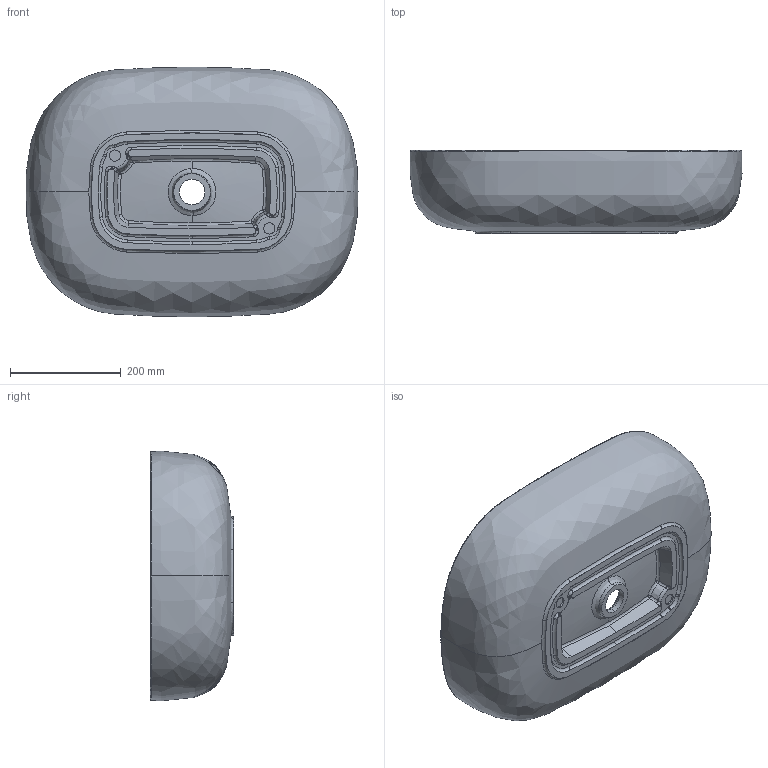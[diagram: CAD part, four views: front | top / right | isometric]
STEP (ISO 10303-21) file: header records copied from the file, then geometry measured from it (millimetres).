
FILE_DESCRIPTION (( 'STEP AP203' ), '1' );
FILE_NAME ('ELLA060450Z0.STEP', '2019-09-13T09:11:19', ( '' ), ( '' ), 'SwSTEP 2.0', 'SolidWorks 2019', '' );
FILE_SCHEMA (( 'CONFIG_CONTROL_DESIGN' ));
Length unit declared in the file: millimetre
Products named in the file (1): ELLA060450Z0
Bounding box: 598.58 x 150 x 450 mm (x, y, z)
Volume: 11007612 mm3; surface area: 758521.9 mm2
Topology: 1 solids, 1 shells, 148 faces, 377 edges, 232 vertices
Faces by surface type: bspline 64, torus 43, cylinder 15, cone 13, plane 9, sphere 4
Entity records: 15691 total; most frequent: CARTESIAN_POINT 12432, ORIENTED_EDGE 746, DIRECTION 596, EDGE_CURVE 373, AXIS2_PLACEMENT_3D 286, VERTEX_POINT 232, CIRCLE 201, EDGE_LOOP 155
